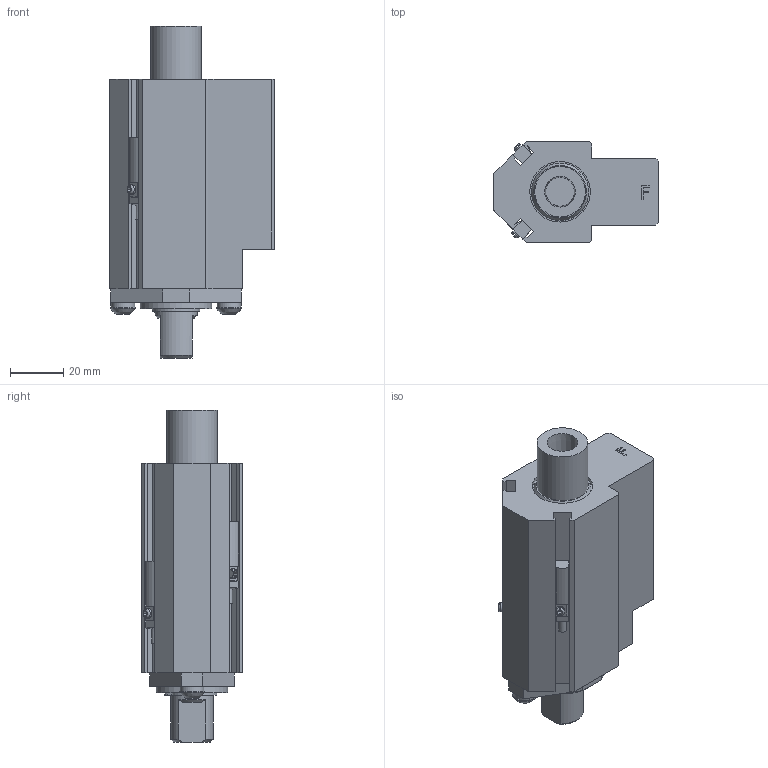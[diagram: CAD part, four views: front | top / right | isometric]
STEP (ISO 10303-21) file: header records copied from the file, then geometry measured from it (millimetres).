
FILE_DESCRIPTION(/* description */ ('MINI PASS THRU GROUND BLOCK'),/* implementation_level */ '2;1');
FILE_NAME(/* name */ 'C:\Vault Workspace\CAD\Welker\Cylinders\GBM\GBM0FL3.stp',/* time_stamp */ '2021-06-24T14:24:20-04:00',/* author */ ('KPL'),/* organization */ (''),/* preprocessor_version */ 'ST-DEVELOPER v18.1',/* originating_system */ 'Autodesk Inventor 2020',/* authorisation */ '');
FILE_SCHEMA (('AUTOMOTIVE_DESIGN { 1 0 10303 214 3 1 1 }'));
Products named in the file (10): GBML01; 91590A126; 96100A152; L3 Sensor 1; M5X0.8-10 BHCS; NL5; GBME01F; GBME02; GBME04; AN-05U2145
Assembly tree (12 placements, depth 2):
  GBML01
    91590A126
    96100A152
    L3 Sensor 1  x2
    M5X0.8-10 BHCS  x2
    NL5  x2
    GBME01F
    GBME02
    GBME04
    AN-05U2145
Bounding box: 62 x 38.1 x 125 mm (x, y, z)
Volume: 126486.8 mm3; surface area: 45957.8 mm2
Topology: 12 solids, 12 shells, 424 faces, 1168 edges, 778 vertices
Faces by surface type: plane 304, cylinder 93, cone 19, torus 4, sphere 2, bspline 2
Full cylindrical faces by diameter (mm): 1.194 x2, 2.9 x2, 4.134 x2, 5 x2, 5.4 x2, 5.5 x2, 6.647 x1, 8 x2, 8.376 x2, 9 x2, 9.5 x2, 14.935 x1, 15.875 x3, 16.383 x1, 19.05 x1, 19.177 x1, 22.225 x2, 22.784 x1, 24.613 x1, 25.654 x1, 25.705 x1, 26.987 x1, 28.591 x1, 28.667 x1
Entity records: 9508 total; most frequent: CARTESIAN_POINT 1667, DIRECTION 1574, ORIENTED_EDGE 1512, EDGE_CURVE 756, AXIS2_PLACEMENT_3D 532, VERTEX_POINT 515, LINE 510, VECTOR 510
